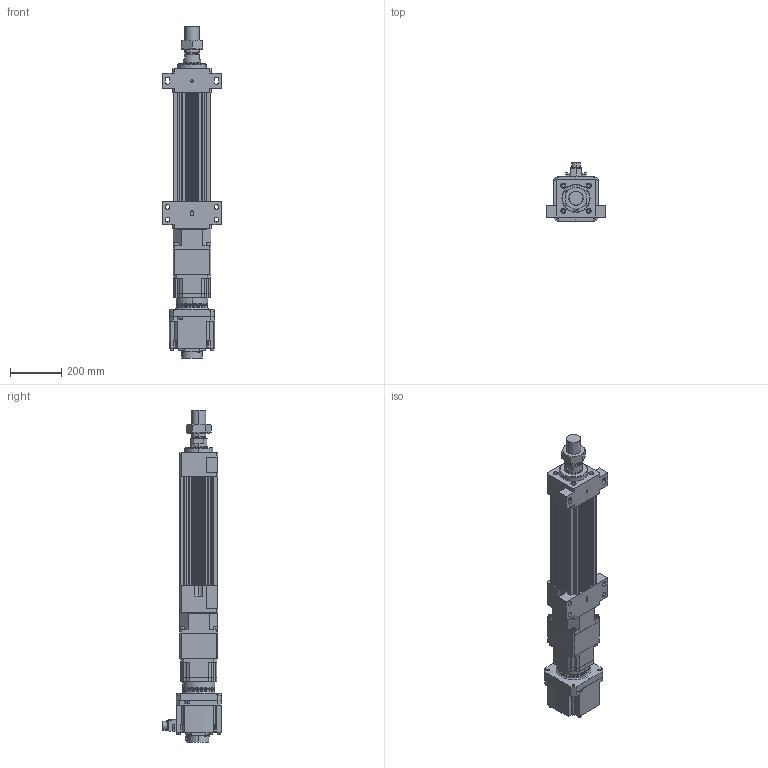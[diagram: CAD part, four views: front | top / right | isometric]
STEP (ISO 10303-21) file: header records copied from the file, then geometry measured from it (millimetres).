
FILE_DESCRIPTION (( 'STEP AP203' ), '1' );
FILE_NAME ('HES150NS(HS)-S150-W035G00-M-FFB.STEP', '2023-01-31T12:28:16', ( 'tms' ), ( '' ), 'SwSTEP 2.0', 'SolidWorks 2013', '' );
FILE_SCHEMA (( 'CONFIG_CONTROL_DESIGN' ));
Length unit declared in the file: millimetre
Products named in the file (9): M56X2.0P; AB142-003[HG-SR352]; HES150NS(HS)-S150-W035G00-M-FFB; HES150-S150-G142-FFB; P0403500801; HES150 ROD M ST150; HG-SR352; P1301500001; AB1421
Assembly tree (8 placements, depth 3):
  HES150NS(HS)-S150-W035G00-M-FFB
    HES150-S150-G142-FFB
    HES150 ROD M ST150
    M56X2.0P
    AB142-003[HG-SR352]
      AB1421
      P1301500001
      P0403500801
    HG-SR352
Bounding box: 230 x 228.85 x 1297.5 mm (x, y, z)
Volume: 14975016.9 mm3; surface area: 1569836.4 mm2
Topology: 5 solids, 23 shells, 1522 faces, 3951 edges, 2569 vertices
Faces by surface type: cylinder 691, plane 599, cone 150, bspline 76, torus 6
Entity records: 55583 total; most frequent: CARTESIAN_POINT 16843, DIRECTION 8091, ORIENTED_EDGE 7808, EDGE_CURVE 3926, AXIS2_PLACEMENT_3D 3042, VERTEX_POINT 2569, VECTOR 2007, LINE 2007
